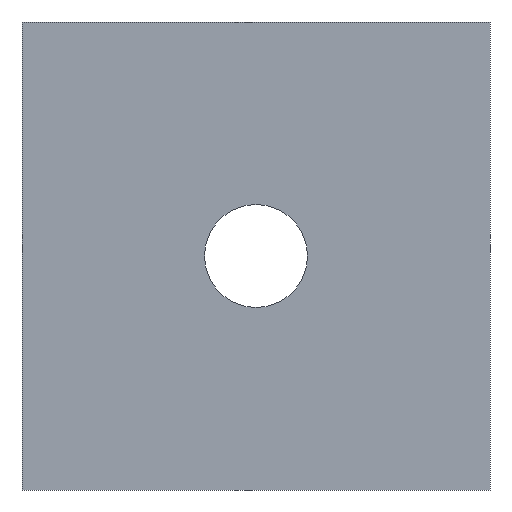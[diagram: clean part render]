
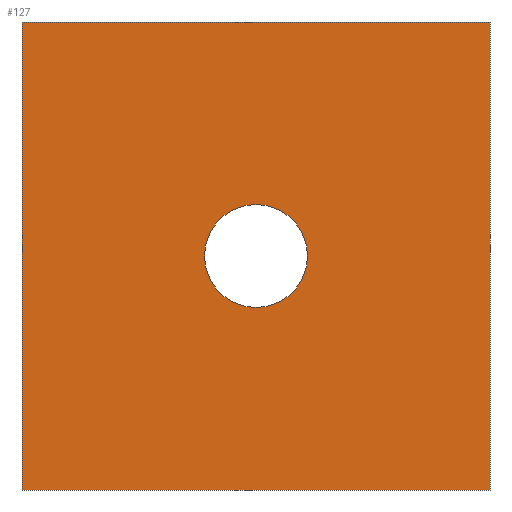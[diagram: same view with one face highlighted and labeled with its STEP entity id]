
A CAD part, front view. The second image highlights one B-rep face of the part: STEP entity #127.
In plain terms, the highlighted planar face has unit normal (0, -1, 0).
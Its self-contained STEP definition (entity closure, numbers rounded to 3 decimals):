
#21=CIRCLE('',#148,1.65);
#31=ORIENTED_EDGE('',*,*,#52,.T.);
#32=ORIENTED_EDGE('',*,*,#59,.F.);
#33=ORIENTED_EDGE('',*,*,#58,.F.);
#34=ORIENTED_EDGE('',*,*,#60,.T.);
#35=ORIENTED_EDGE('',*,*,#61,.T.);
#52=EDGE_CURVE('',#67,#65,#76,.T.);
#58=EDGE_CURVE('',#72,#69,#82,.T.);
#59=EDGE_CURVE('',#69,#65,#83,.T.);
#60=EDGE_CURVE('',#72,#67,#84,.T.);
#61=EDGE_CURVE('',#73,#73,#21,.T.);
#65=VERTEX_POINT('',#189);
#67=VERTEX_POINT('',#192);
#69=VERTEX_POINT('',#198);
#72=VERTEX_POINT('',#203);
#73=VERTEX_POINT('',#209);
#76=LINE('',#191,#88);
#82=LINE('',#204,#94);
#83=LINE('',#206,#95);
#84=LINE('',#207,#96);
#88=VECTOR('',#159,1000.);
#94=VECTOR('',#167,1000.);
#95=VECTOR('',#170,1000.);
#96=VECTOR('',#171,1000.);
#101=EDGE_LOOP('',(#31,#32,#33,#34));
#102=EDGE_LOOP('',(#35));
#111=FACE_BOUND('',#101,.T.);
#112=FACE_BOUND('',#102,.T.);
#121=PLANE('',#147);
#127=ADVANCED_FACE('',(#111,#112),#121,.F.);
#147=AXIS2_PLACEMENT_3D('',#205,#168,#169);
#148=AXIS2_PLACEMENT_3D('',#208,#172,#173);
#159=DIRECTION('',(0.,0.,1.));
#167=DIRECTION('',(0.,0.,1.));
#168=DIRECTION('',(0.,1.,0.));
#169=DIRECTION('',(0.,0.,1.));
#170=DIRECTION('',(1.,0.,0.));
#171=DIRECTION('',(1.,0.,0.));
#172=DIRECTION('',(0.,1.,0.));
#173=DIRECTION('',(0.,0.,1.));
#189=CARTESIAN_POINT('',(-1745.061,1577.569,-1624.001));
#191=CARTESIAN_POINT('',(-1745.061,1577.569,-1624.001));
#192=CARTESIAN_POINT('',(-1745.061,1577.569,-1639.001));
#198=CARTESIAN_POINT('',(-1760.061,1577.569,-1624.001));
#203=CARTESIAN_POINT('',(-1760.061,1577.569,-1639.001));
#204=CARTESIAN_POINT('',(-1760.061,1577.569,-1624.001));
#205=CARTESIAN_POINT('',(-1760.061,1577.569,-1624.001));
#206=CARTESIAN_POINT('',(-1760.061,1577.569,-1624.001));
#207=CARTESIAN_POINT('',(-1760.061,1577.569,-1639.001));
#208=CARTESIAN_POINT('',(-1752.561,1577.569,-1631.501));
#209=CARTESIAN_POINT('',(-1752.561,1577.569,-1629.851));
